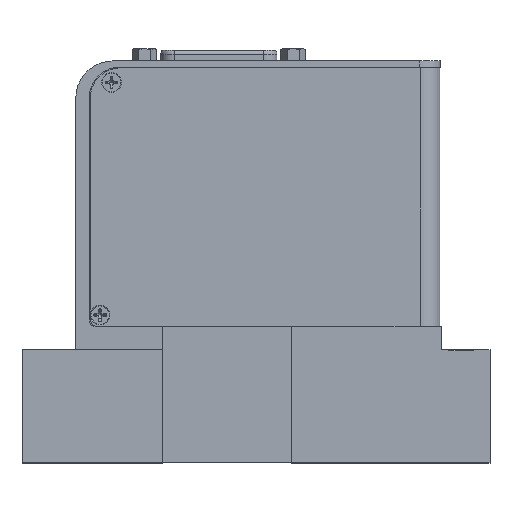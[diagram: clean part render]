
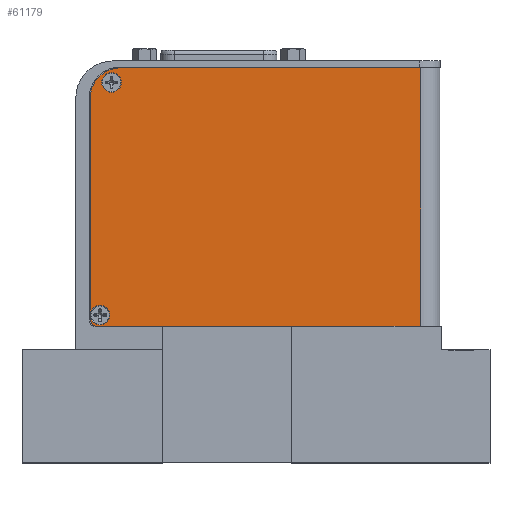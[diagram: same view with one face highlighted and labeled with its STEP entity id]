
A CAD part, top view. The second image highlights one B-rep face of the part: STEP entity #61179.
In plain terms, the highlighted planar face has unit normal (0, 0, 1).
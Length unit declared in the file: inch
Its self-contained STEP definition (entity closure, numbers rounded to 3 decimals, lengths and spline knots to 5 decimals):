
#346 = DIRECTION ( 'NONE',  ( 0., 0., -1. ) ) ;
#1145 = AXIS2_PLACEMENT_3D ( 'NONE', #58705, #23679, #58386 ) ;
#3108 = CARTESIAN_POINT ( 'NONE',  ( 0.74106, 4.78184, 3.07351 ) ) ;
#3455 = DIRECTION ( 'NONE',  ( 1., 0., 0. ) ) ;
#4244 = CARTESIAN_POINT ( 'NONE',  ( 0.74106, 4.51184, 3.07351 ) ) ;
#5696 = CARTESIAN_POINT ( 'NONE',  ( 0.74106, 2.56384, 3.07351 ) ) ;
#5705 = AXIS2_PLACEMENT_3D ( 'NONE', #21898, #7318, #51427 ) ;
#7318 = DIRECTION ( 'NONE',  ( 0., 0., -1. ) ) ;
#8175 = EDGE_CURVE ( 'NONE', #9043, #16899, #44026, .T. ) ;
#8858 = DIRECTION ( 'NONE',  ( 1., 0., 0. ) ) ;
#9043 = VERTEX_POINT ( 'NONE', #30256 ) ;
#9095 = DIRECTION ( 'NONE',  ( -1., 0., 0. ) ) ;
#9188 = ORIENTED_EDGE ( 'NONE', *, *, #56919, .T. ) ;
#9332 = EDGE_CURVE ( 'NONE', #13919, #42786, #42963, .T. ) ;
#11663 = ORIENTED_EDGE ( 'NONE', *, *, #34666, .F. ) ;
#11773 = VECTOR ( 'NONE', #12185, 39.37008 ) ;
#12185 = DIRECTION ( 'NONE',  ( 0., 1., 0. ) ) ;
#13866 = CARTESIAN_POINT ( 'NONE',  ( 3.80006, 4.78184, 3.07351 ) ) ;
#13919 = VERTEX_POINT ( 'NONE', #5696 ) ;
#13945 = CARTESIAN_POINT ( 'NONE',  ( 3.66006, 2.50084, 3.07351 ) ) ;
#14312 = EDGE_CURVE ( 'NONE', #49210, #22537, #16655, .T. ) ;
#15610 = CIRCLE ( 'NONE', #33207, 0.063 ) ;
#16655 = CIRCLE ( 'NONE', #30158, 0.086 ) ;
#16699 = DIRECTION ( 'NONE',  ( 0., -1., 0. ) ) ;
#16899 = VERTEX_POINT ( 'NONE', #62187 ) ;
#17473 = VECTOR ( 'NONE', #16699, 39.37008 ) ;
#18841 = CARTESIAN_POINT ( 'NONE',  ( 0.93106, 4.65284, 3.07351 ) ) ;
#19126 = FACE_BOUND ( 'NONE', #29489, .T. ) ;
#20917 = CARTESIAN_POINT ( 'NONE',  ( 0.82906, 2.59884, 3.07351 ) ) ;
#21194 = CIRCLE ( 'NONE', #5705, 0.086 ) ;
#21230 = DIRECTION ( 'NONE',  ( 0., 0., -1. ) ) ;
#21898 = CARTESIAN_POINT ( 'NONE',  ( 0.93106, 4.65284, 3.07351 ) ) ;
#22191 = VECTOR ( 'NONE', #33654, 39.37008 ) ;
#22238 = EDGE_LOOP ( 'NONE', ( #43008, #62372, #11663, #53234, #37621, #29475 ) ) ;
#22537 = VERTEX_POINT ( 'NONE', #51271 ) ;
#23679 = DIRECTION ( 'NONE',  ( 0., 0., -1. ) ) ;
#25424 = ORIENTED_EDGE ( 'NONE', *, *, #34665, .T. ) ;
#26073 = EDGE_CURVE ( 'NONE', #26623, #41601, #46934, .T. ) ;
#26623 = VERTEX_POINT ( 'NONE', #34140 ) ;
#29475 = ORIENTED_EDGE ( 'NONE', *, *, #9332, .F. ) ;
#29489 = EDGE_LOOP ( 'NONE', ( #9188, #52605 ) ) ;
#30158 = AXIS2_PLACEMENT_3D ( 'NONE', #57538, #32889, #8858 ) ;
#30256 = CARTESIAN_POINT ( 'NONE',  ( 1.01106, 4.78184, 3.07351 ) ) ;
#30918 = CIRCLE ( 'NONE', #56820, 0.086 ) ;
#31829 = VECTOR ( 'NONE', #3455, 39.37008 ) ;
#31938 = VERTEX_POINT ( 'NONE', #32139 ) ;
#32139 = CARTESIAN_POINT ( 'NONE',  ( 0.84506, 4.65284, 3.07351 ) ) ;
#32889 = DIRECTION ( 'NONE',  ( 0., 0., -1. ) ) ;
#33207 = AXIS2_PLACEMENT_3D ( 'NONE', #47888, #63758, #38459 ) ;
#33654 = DIRECTION ( 'NONE',  ( 1., 0., 0. ) ) ;
#33764 = DIRECTION ( 'NONE',  ( 1., 0., 0. ) ) ;
#34140 = CARTESIAN_POINT ( 'NONE',  ( 0.80406, 2.50084, 3.07351 ) ) ;
#34665 = EDGE_CURVE ( 'NONE', #22537, #49210, #30918, .T. ) ;
#34666 = EDGE_CURVE ( 'NONE', #16899, #41601, #47198, .T. ) ;
#34719 = AXIS2_PLACEMENT_3D ( 'NONE', #44767, #346, #9095 ) ;
#37272 = EDGE_CURVE ( 'NONE', #42786, #9043, #40479, .T. ) ;
#37621 = ORIENTED_EDGE ( 'NONE', *, *, #37272, .F. ) ;
#38139 = CARTESIAN_POINT ( 'NONE',  ( 3.66006, 2.50084, 3.07351 ) ) ;
#38459 = DIRECTION ( 'NONE',  ( 1., 0., 0. ) ) ;
#39099 = AXIS2_PLACEMENT_3D ( 'NONE', #18841, #58418, #33764 ) ;
#39136 = EDGE_CURVE ( 'NONE', #26623, #13919, #15610, .T. ) ;
#40479 = CIRCLE ( 'NONE', #1145, 0.27 ) ;
#41601 = VERTEX_POINT ( 'NONE', #13945 ) ;
#42786 = VERTEX_POINT ( 'NONE', #4244 ) ;
#42963 = LINE ( 'NONE', #3108, #11773 ) ;
#43008 = ORIENTED_EDGE ( 'NONE', *, *, #39136, .F. ) ;
#44026 = LINE ( 'NONE', #13866, #22191 ) ;
#44112 = FACE_OUTER_BOUND ( 'NONE', #22238, .T. ) ;
#44263 = VERTEX_POINT ( 'NONE', #49256 ) ;
#44767 = CARTESIAN_POINT ( 'NONE',  ( 3.66006, 4.78184, 3.07351 ) ) ;
#46934 = LINE ( 'NONE', #38139, #31829 ) ;
#47198 = LINE ( 'NONE', #61151, #17473 ) ;
#47285 = EDGE_CURVE ( 'NONE', #31938, #44263, #21194, .T. ) ;
#47888 = CARTESIAN_POINT ( 'NONE',  ( 0.80406, 2.56384, 3.07351 ) ) ;
#48673 = PLANE ( 'NONE',  #34719 ) ;
#49210 = VERTEX_POINT ( 'NONE', #50012 ) ;
#49256 = CARTESIAN_POINT ( 'NONE',  ( 1.01706, 4.65284, 3.07351 ) ) ;
#50012 = CARTESIAN_POINT ( 'NONE',  ( 0.91506, 2.59884, 3.07351 ) ) ;
#51271 = CARTESIAN_POINT ( 'NONE',  ( 0.74306, 2.59884, 3.07351 ) ) ;
#51427 = DIRECTION ( 'NONE',  ( 1., 0., 0. ) ) ;
#52605 = ORIENTED_EDGE ( 'NONE', *, *, #47285, .T. ) ;
#53234 = ORIENTED_EDGE ( 'NONE', *, *, #8175, .F. ) ;
#55294 = ORIENTED_EDGE ( 'NONE', *, *, #14312, .T. ) ;
#55621 = DIRECTION ( 'NONE',  ( 1., 0., 0. ) ) ;
#56820 = AXIS2_PLACEMENT_3D ( 'NONE', #20917, #21230, #55621 ) ;
#56919 = EDGE_CURVE ( 'NONE', #44263, #31938, #63845, .T. ) ;
#57538 = CARTESIAN_POINT ( 'NONE',  ( 0.82906, 2.59884, 3.07351 ) ) ;
#58386 = DIRECTION ( 'NONE',  ( -1., 0., 0. ) ) ;
#58418 = DIRECTION ( 'NONE',  ( 0., 0., -1. ) ) ;
#58705 = CARTESIAN_POINT ( 'NONE',  ( 1.01106, 4.51184, 3.07351 ) ) ;
#60045 = EDGE_LOOP ( 'NONE', ( #55294, #25424 ) ) ;
#61151 = CARTESIAN_POINT ( 'NONE',  ( 3.66006, 4.78184, 3.07351 ) ) ;
#61179 = ADVANCED_FACE ( 'NONE', ( #44112, #19126, #63912 ), #48673, .F. ) ;
#62187 = CARTESIAN_POINT ( 'NONE',  ( 3.66006, 4.78184, 3.07351 ) ) ;
#62372 = ORIENTED_EDGE ( 'NONE', *, *, #26073, .T. ) ;
#63758 = DIRECTION ( 'NONE',  ( 0., 0., -1. ) ) ;
#63845 = CIRCLE ( 'NONE', #39099, 0.086 ) ;
#63912 = FACE_BOUND ( 'NONE', #60045, .T. ) ;
